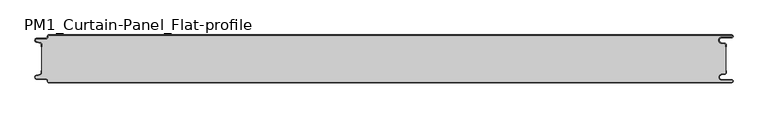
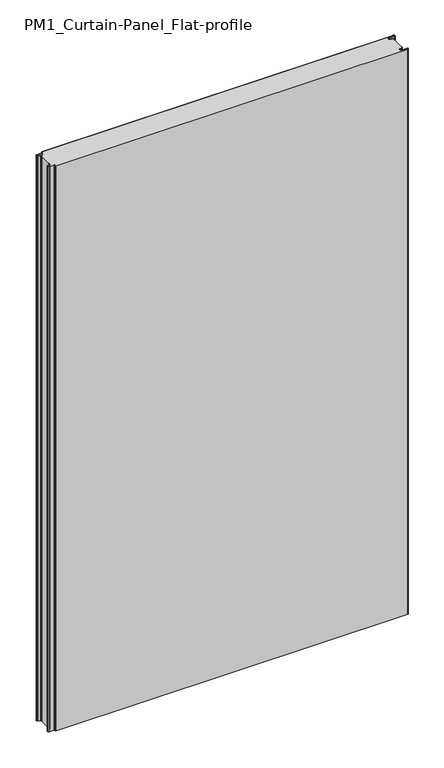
"""IFC4 building model written with IfcOpenShell, lengths in millimetres: plate geometry, PM1_Curtain-Panel_Flat-profile : ACH_PM1_Acoustic-Sectioning-Panel_80M."""

import ifcopenshell
import ifcopenshell.guid

model = None  # the IFC model being written
_history = None  # IfcOwnerHistory: only IFC2X3 demands one
_inside = {}  # id of a spatial element -> (the spatial element, [elements in it])
_under = {}  # id of a project, library or spatial element -> (it, [spatial elements below it])
_declared = {}  # id of a project -> (the project, [libraries it declares])
_typed = {}  # id of a type object -> (the type object, [elements of that type])
_made_of = {}  # id of a material, layer set ... -> (it, [elements and type objects made of it])


def new_model(schema):
    """Start an empty IFC model of exactly this schema.

    Asked for "IFC4X3", IfcOpenShell would pick the latest addendum, in which some entities
    have other attributes; the version numbers below select the first issue.
    IFC2X3 requires an IfcOwnerHistory on every rooted entity: one is made here for all.
    """
    global model, _history
    if schema == "IFC4X3":
        model = ifcopenshell.file(schema_version=(4, 3, 0, 0))
    else:
        model = ifcopenshell.file(schema=schema)
    _inside.clear()
    _under.clear()
    _declared.clear()
    _typed.clear()
    _made_of.clear()
    _history = None
    if model.schema == "IFC2X3":
        org = make("IfcOrganization", Name="unknown")
        user = make(
            "IfcPersonAndOrganization",
            ThePerson=make("IfcPerson", FamilyName="unknown"),
            TheOrganization=org,
        )
        app = make(
            "IfcApplication",
            ApplicationDeveloper=org,
            Version="unknown",
            ApplicationFullName="unknown",
            ApplicationIdentifier="unknown",
        )
        _history = make(
            "IfcOwnerHistory",
            OwningUser=user,
            OwningApplication=app,
            ChangeAction="ADDED",
            CreationDate=0,
        )
    return model


def make(cls, **values):
    """One entity of the class cls with the attributes given. An attribute that is None is left unset."""
    return model.create_entity(
        cls, **{name: value for name, value in values.items() if value is not None}
    )


def rooted(cls, **values):
    """An entity with a GlobalId (a new one), such as an element, a storey or a relation."""
    return make(cls, GlobalId=ifcopenshell.guid.new(), OwnerHistory=_history, **values)


def si_unit(unit_type, name, prefix=None):
    """IfcSIUnit, for example si_unit("LENGTHUNIT", "METRE", prefix="MILLI")."""
    return make("IfcSIUnit", UnitType=unit_type, Prefix=prefix, Name=name)


def assignment(units):
    """IfcUnitAssignment: the units of a project."""
    return None if units is None else make("IfcUnitAssignment", Units=units)


def point(xyz):
    """IfcCartesianPoint."""
    return None if xyz is None else make("IfcCartesianPoint", Coordinates=xyz)


def direction(xyz):
    """IfcDirection."""
    return None if xyz is None else make("IfcDirection", DirectionRatios=xyz)


def frame(location, z_axis=None, x_axis=None):
    """IfcAxis2Placement3D, a coordinate frame: its origin and axes. An axis left out is left unset."""
    return make(
        "IfcAxis2Placement3D",
        Location=point(location),
        Axis=direction(z_axis),
        RefDirection=direction(x_axis),
    )


def frame_2d(location, x_axis=None):
    """IfcAxis2Placement2D, a coordinate frame in the plane: its origin and x axis."""
    return make(
        "IfcAxis2Placement2D", Location=point(location), RefDirection=direction(x_axis)
    )


def origin():
    """The frame at (0, 0, 0) with its axes left unset."""
    return frame((0.0, 0.0, 0.0))


def origin_with_axes():
    """The frame at (0, 0, 0) with the z axis (0, 0, 1) and the x axis (1, 0, 0) written out."""
    return frame((0.0, 0.0, 0.0), z_axis=(0.0, 0.0, 1.0), x_axis=(1.0, 0.0, 0.0))


def place(relative_to, where):
    """IfcLocalPlacement: puts the frame where relative to a parent placement (None: the world)."""
    return make(
        "IfcLocalPlacement", PlacementRelTo=relative_to, RelativePlacement=where
    )


def context(
    kind, dimensions, precision=None, world=None, true_north=None, identifier=None
):
    """IfcGeometricRepresentationContext, for example the 3D "Model" context."""
    return make(
        "IfcGeometricRepresentationContext",
        ContextIdentifier=identifier,
        ContextType=kind,
        CoordinateSpaceDimension=dimensions,
        Precision=precision,
        WorldCoordinateSystem=world,
        TrueNorth=true_north,
    )


def project(units=None, contexts=None):
    """IfcProject with its units and contexts."""
    return rooted(
        "IfcProject",
        Name="project",
        RepresentationContexts=contexts,
        UnitsInContext=assignment(units),
    )


def spatial(cls, under=None, at=None, **own):
    """A site, building, storey or space (cls), placed at a placement, below another one or the project."""
    s = rooted(cls, ObjectPlacement=at, **own)
    if under is not None:
        _under.setdefault(under.id(), (under, []))[1].append(s)
    return s


def polyline(points):
    """IfcPolyline through the points."""
    return make("IfcPolyline", Points=[point(p) for p in points])


def circle_curve(where, radius):
    """IfcCircle in the frame where."""
    return make("IfcCircle", Position=where, Radius=radius)


def trimmed(basis, trim1, trim2, sense, master):
    """IfcTrimmedCurve: the piece of a basis curve between two trims."""
    return make(
        "IfcTrimmedCurve",
        BasisCurve=basis,
        Trim1=trim1,
        Trim2=trim2,
        SenseAgreement=sense,
        MasterRepresentation=master,
    )


def segment(curve, same_sense, transition):
    """IfcCompositeCurveSegment."""
    return make(
        "IfcCompositeCurveSegment",
        Transition=transition,
        SameSense=same_sense,
        ParentCurve=curve,
    )


def composite_curve(segments, self_intersect=None):
    """IfcCompositeCurve: segments joined end to end."""
    return make("IfcCompositeCurve", Segments=segments, SelfIntersect=self_intersect)


def outline(outer, holes=None, kind="AREA"):
    """IfcArbitraryClosedProfileDef: a profile drawn as a closed curve; with holes, ...WithVoids."""
    if holes is None:
        return make("IfcArbitraryClosedProfileDef", ProfileType=kind, OuterCurve=outer)
    return make(
        "IfcArbitraryProfileDefWithVoids",
        ProfileType=kind,
        OuterCurve=outer,
        InnerCurves=holes,
    )


def extrude(swept, where, along, depth):
    """IfcExtrudedAreaSolid: the profile swept, set in the frame where, extruded along a direction by depth."""
    return make(
        "IfcExtrudedAreaSolid",
        SweptArea=swept,
        Position=where,
        ExtrudedDirection=direction(along),
        Depth=depth,
    )


def shape(context_of_items, identifier, shape_type, items):
    """IfcShapeRepresentation: the items that make up one representation, for example the "Body"."""
    return make(
        "IfcShapeRepresentation",
        ContextOfItems=context_of_items,
        RepresentationIdentifier=identifier,
        RepresentationType=shape_type,
        Items=items,
    )


def source(mapping_origin, context_of_items, identifier, shape_type, items):
    """IfcRepresentationMap: a shape defined once, which mapped items show again and again."""
    return make(
        "IfcRepresentationMap",
        MappingOrigin=mapping_origin,
        MappedRepresentation=shape(context_of_items, identifier, shape_type, items),
    )


def transform(
    local_origin,
    x_axis=None,
    y_axis=None,
    z_axis=None,
    scale=None,
    scale2=None,
    scale3=None,
    uniform=True,
):
    """IfcCartesianTransformationOperator3D, or its non-uniform kind. x_axis, y_axis, z_axis: its Axis1, 2, 3."""
    if uniform:
        return make(
            "IfcCartesianTransformationOperator3D",
            Axis1=direction(x_axis),
            Axis2=direction(y_axis),
            LocalOrigin=point(local_origin),
            Scale=scale,
            Axis3=direction(z_axis),
        )
    return make(
        "IfcCartesianTransformationOperator3DnonUniform",
        Axis1=direction(x_axis),
        Axis2=direction(y_axis),
        LocalOrigin=point(local_origin),
        Scale=scale,
        Axis3=direction(z_axis),
        Scale2=scale2,
        Scale3=scale3,
    )


def mapped(mapping_source, mapping_target):
    """IfcMappedItem: shows the shape of a source again, moved by a transform."""
    return make(
        "IfcMappedItem", MappingSource=mapping_source, MappingTarget=mapping_target
    )


def made_of(thing, what):
    """Note that an element or type object is made of a material, layer set ...; save() writes the relation."""
    if what is not None:
        _made_of.setdefault(what.id(), (what, []))[1].append(thing)
    return thing


def element(
    cls,
    number,
    at=None,
    inside=None,
    cuts=None,
    type_object=None,
    material=None,
    context=None,
    identifier="Body",
    shape_type=None,
    held_by="IfcProductDefinitionShape",
    body=None,
    shapes=None,
    **own,
):
    """One element of the class cls, such as IfcWall. Its Tag is "e" and its number.

    at: its placement. inside: the storey or other place that contains it. cuts: it is an
    opening in that element (IfcRelVoidsElement). A single representation is given by context,
    identifier, shape_type and body (its items); several are given by shapes. held_by: the class
    of the entity that holds the representations. save() writes the other relations.
    """
    e = rooted(cls, Tag="e%d" % number, ObjectPlacement=at, **own)
    if body is not None:
        shapes = [shape(context, identifier, shape_type, body)]
    if shapes is not None:
        e.Representation = make(held_by, Representations=shapes)
    if inside is not None:
        _inside.setdefault(inside.id(), (inside, []))[1].append(e)
    if cuts is not None:
        rooted(
            "IfcRelVoidsElement", RelatingBuildingElement=cuts, RelatedOpeningElement=e
        )
    if type_object is not None:
        _typed.setdefault(type_object.id(), (type_object, []))[1].append(e)
    return made_of(e, material)


def aggregate(whole, parts):
    """IfcRelAggregates: a whole, such as a stair, and the parts it consists of."""
    return rooted("IfcRelAggregates", RelatingObject=whole, RelatedObjects=parts)


def save(model, path):
    """Write the relations noted so far, then the file.

    IfcRelAggregates (storeys below a building ...), IfcRelContainedInSpatialStructure (elements
    in a storey), IfcRelDefinesByType, IfcRelAssociatesMaterial and IfcRelDeclares: one each for
    every whole, place, type object, material and project.
    """
    for whole, parts in _under.values():
        aggregate(whole, parts)
    for where, things in _inside.values():
        rooted(
            "IfcRelContainedInSpatialStructure",
            RelatedElements=things,
            RelatingStructure=where,
        )
    for kind, things in _typed.values():
        rooted("IfcRelDefinesByType", RelatedObjects=things, RelatingType=kind)
    for what, things in _made_of.values():
        rooted("IfcRelAssociatesMaterial", RelatedObjects=things, RelatingMaterial=what)
    for by, libraries in _declared.values():
        rooted("IfcRelDeclares", RelatingContext=by, RelatedDefinitions=libraries)
    model.write(path)


def plane_surface(at):
    """IfcPlane: the flat surface through the origin of the frame at, square to its z axis."""
    return make("IfcPlane", Position=at)


def cylinder_surface(at, radius):
    """IfcCylindricalSurface: all points at the distance radius from the z axis of the frame at."""
    return make("IfcCylindricalSurface", Position=at, Radius=radius)


def revolved_surface(curve, axis_point, axis_direction):
    """IfcSurfaceOfRevolution: the curve turned about the line through axis_point along axis_direction."""
    return make(
        "IfcSurfaceOfRevolution",
        SweptCurve=make("IfcArbitraryOpenProfileDef", ProfileType="CURVE", Curve=curve),
        AxisPosition=make("IfcAxis1Placement", Location=point(axis_point), Axis=direction(axis_direction)),
    )


def advanced_brep(points, edges, surfaces, faces):
    """IfcAdvancedBrep: a solid bounded by faces that lie on surfaces and meet in shared edges.

    An edge is (start, end): straight between two places in points (the first is 0);
    or (start, end, curve); or (start, end, curve, False) where it runs against its curve.
    A face is (place in surfaces, loops), or (place, loops, False) where it looks against
    its surface's normal. A loop lists edges by number (the first is 1), with a minus sign
    where the edge is run from its end to its start. The first loop is the outer one.
    """
    corners = [point(p) for p in points]
    vertices = [make("IfcVertexPoint", VertexGeometry=c) for c in corners]
    made = []
    for start, end, *more in edges:
        made.append(
            make(
                "IfcEdgeCurve",
                EdgeStart=vertices[start],
                EdgeEnd=vertices[end],
                EdgeGeometry=more[0] if more else make("IfcPolyline", Points=[corners[start], corners[end]]),
                SameSense=more[1] if len(more) > 1 else True,
            )
        )
    hull = []
    for where, loops, *sense in faces:
        bounds = []
        for j, loop in enumerate(loops):
            ring = [make("IfcOrientedEdge", EdgeElement=made[abs(k) - 1], Orientation=k > 0) for k in loop]
            bounds.append(
                make(
                    "IfcFaceOuterBound" if j == 0 else "IfcFaceBound",
                    Bound=make("IfcEdgeLoop", EdgeList=ring),
                    Orientation=True,
                )
            )
        hull.append(make("IfcAdvancedFace", Bounds=bounds, FaceSurface=surfaces[where], SameSense=sense[0] if sense else True))
    return make("IfcAdvancedBrep", Outer=make("IfcClosedShell", CfsFaces=hull))


def pm1_curtain_panel_flat_profile_286b1131(model_context):
    return source(origin(), model_context, "Body", "SolidModel", [
        advanced_brep(
        [(583.1, 0.0, 1945.7507136), (-562.4, 0.0, 1945.7507136), (-564.4, -2.0, 1945.7507136), (-564.4, -3.4, 1945.7507136), (-566.4, -5.4, 1945.7507136), (-581.9, -5.4, 1945.7507136), (-582.7098239, -12.5077322, 1945.7507136), (-576.5500979, -13.929817, 1945.7507136), (-575.0, -15.878557, 1945.7507136), (-575.0, -20.0, 1945.7507136), (-574.2, -20.0, 1945.7507136), (-574.2, -15.878557, 1945.7507136), (-576.370137, -13.1503208, 1945.7507136), (-582.529863, -11.728236, 1945.7507136), (-581.9, -6.2, 1945.7507136), (-566.4, -6.2, 1945.7507136), (-563.6, -3.4, 1945.7507136), (-563.6, -2.0, 1945.7507136), (-562.4, -0.8, 1945.7507136), (583.1, -0.8, 1945.7507136), (583.1, -4.2, 1945.7507136), (566.1, -4.2, 1945.7507136), (565.266489, -13.7270773, 1945.7507136), (571.7125666, -14.8636942, 1945.7507136), (573.2, -16.636348, 1945.7507136), (573.2, -20.0, 1945.7507136), (574.0, -20.0, 1945.7507136), (574.0, -16.636348, 1945.7507136), (571.8514851, -14.0758478, 1945.7507136), (565.4054075, -12.9392309, 1945.7507136), (566.1, -5.0, 1945.7507136), (583.1, -5.0, 1945.7507136), (585.6, -2.5, 1945.7507136), (-562.4, 0.0, 0.0), (583.1, 0.0, 0.0), (585.6, -2.5, 0.0), (583.1, -5.0, 0.0), (566.1, -5.0, 0.0), (565.4054075, -12.939231, 0.0), (571.8514851, -14.075848, 0.0), (574.0, -16.636348, 0.0), (574.0, -20.0, 0.0), (573.2, -20.0, 0.0), (573.2, -16.636348, 0.0), (571.7125666, -14.863694, 0.0), (565.266489, -13.7270771, 0.0), (566.1, -4.2, 0.0), (583.1, -4.2, 0.0), (583.1, -0.8, 0.0), (-562.4, -0.8, 0.0), (-563.6, -2.0, 0.0), (-563.6, -3.4, 0.0), (-566.4, -6.2, 0.0), (-581.9, -6.2, 0.0), (-582.529863, -11.7282362, 0.0), (-576.370137, -13.150321, 0.0), (-574.2, -15.878557, 0.0), (-574.2, -20.0, 0.0), (-575.0, -20.0, 0.0), (-575.0, -15.878557, 0.0), (-576.5500978, -13.9298169, 0.0), (-582.7098239, -12.507732, 0.0), (-581.9, -5.4, 0.0), (-566.4, -5.4, 0.0), (-564.4, -3.4, 0.0), (-564.4, -2.0, 0.0)],
        [
            (0, 1),
            (1, 2, circle_curve(frame((-562.4, -2.0, 1945.7507136), z_axis=(0.0, 0.0, 1.0), x_axis=(1.0, 0.0, 0.0)), 2.0)),
            (2, 3),
            (3, 4, circle_curve(frame((-566.4, -3.4, 1945.7507136), z_axis=(0.0, 0.0, -1.0), x_axis=(1.0, 0.0, 0.0)), 2.0)),
            (4, 5),
            (5, 6, circle_curve(frame((-581.9, -9.0, 1945.7507136), z_axis=(0.0, 0.0, 1.0), x_axis=(1.0, 0.0, 0.0)), 3.6)),
            (6, 7),
            (7, 8, circle_curve(frame((-577.0, -15.878557, 1945.7507136), z_axis=(0.0, 0.0, -1.0), x_axis=(1.0, 0.0, 0.0)), 2.0)),
            (8, 9),
            (9, 10),
            (10, 11),
            (11, 12, circle_curve(frame((-577.0, -15.878557, 1945.7507136), z_axis=(0.0, 0.0, 1.0), x_axis=(1.0, 0.0, 0.0)), 2.8)),
            (12, 13),
            (13, 14, circle_curve(frame((-581.9, -9.0, 1945.7507136), z_axis=(0.0, 0.0, -1.0), x_axis=(1.0, 0.0, 0.0)), 2.8)),
            (14, 15),
            (15, 16, circle_curve(frame((-566.4, -3.4, 1945.7507136), z_axis=(0.0, 0.0, 1.0), x_axis=(1.0, 0.0, 0.0)), 2.8)),
            (16, 17),
            (17, 18, circle_curve(frame((-562.4, -2.0, 1945.7507136), z_axis=(0.0, 0.0, -1.0), x_axis=(1.0, 0.0, 0.0)), 1.2)),
            (18, 19),
            (19, 20, circle_curve(frame((583.1, -2.5, 1945.7507136), z_axis=(0.0, 0.0, -1.0), x_axis=(1.0, 0.0, 0.0)), 1.7)),
            (20, 21),
            (21, 22, circle_curve(frame((566.1, -9.0, 1945.7507136), z_axis=(0.0, 0.0, 1.0), x_axis=(1.0, 0.0, 0.0)), 4.8)),
            (22, 23),
            (23, 24, circle_curve(frame((571.4, -16.636348, 1945.7507136), z_axis=(0.0, 0.0, -1.0), x_axis=(1.0, 0.0, 0.0)), 1.8)),
            (24, 25),
            (25, 26),
            (26, 27),
            (27, 28, circle_curve(frame((571.4, -16.636348, 1945.7507136), z_axis=(0.0, 0.0, 1.0), x_axis=(1.0, 0.0, 0.0)), 2.6)),
            (28, 29),
            (29, 30, circle_curve(frame((566.1, -9.0, 1945.7507136), z_axis=(0.0, 0.0, -1.0), x_axis=(1.0, 0.0, 0.0)), 4.0)),
            (30, 31),
            (31, 32, circle_curve(frame((583.1, -2.5, 1945.7507136), z_axis=(0.0, 0.0, 1.0), x_axis=(1.0, 0.0, 0.0)), 2.5)),
            (32, 0, circle_curve(frame((583.1, -2.5, 1945.7507136), z_axis=(0.0, 0.0, 1.0), x_axis=(1.0, 0.0, 0.0)), 2.5)),
            (33, 34),
            (34, 35, circle_curve(frame((583.1, -2.5, 0.0), z_axis=(0.0, 0.0, -1.0), x_axis=(1.0, 0.0, 0.0)), 2.5)),
            (35, 36, circle_curve(frame((583.1, -2.5, 0.0), z_axis=(0.0, 0.0, -1.0), x_axis=(1.0, 0.0, 0.0)), 2.5)),
            (36, 37),
            (37, 38, circle_curve(frame((566.1, -9.0, 0.0), z_axis=(0.0, 0.0, 1.0), x_axis=(1.0, 0.0, 0.0)), 4.0)),
            (38, 39),
            (39, 40, circle_curve(frame((571.4, -16.636348, 0.0), z_axis=(0.0, 0.0, -1.0), x_axis=(1.0, 0.0, 0.0)), 2.6)),
            (40, 41),
            (41, 42),
            (42, 43),
            (43, 44, circle_curve(frame((571.4, -16.636348, 0.0), z_axis=(0.0, 0.0, 1.0), x_axis=(1.0, 0.0, 0.0)), 1.8)),
            (44, 45),
            (45, 46, circle_curve(frame((566.1, -9.0, 0.0), z_axis=(0.0, 0.0, -1.0), x_axis=(1.0, 0.0, 0.0)), 4.8)),
            (46, 47),
            (47, 48, circle_curve(frame((583.1, -2.5, 0.0), z_axis=(0.0, 0.0, 1.0), x_axis=(1.0, 0.0, 0.0)), 1.7)),
            (48, 49),
            (49, 50, circle_curve(frame((-562.4, -2.0, 0.0), z_axis=(0.0, 0.0, 1.0), x_axis=(1.0, 0.0, 0.0)), 1.2)),
            (50, 51),
            (51, 52, circle_curve(frame((-566.4, -3.4, 0.0), z_axis=(0.0, 0.0, -1.0), x_axis=(1.0, 0.0, 0.0)), 2.8)),
            (52, 53),
            (53, 54, circle_curve(frame((-581.9, -9.0, 0.0), z_axis=(0.0, 0.0, 1.0), x_axis=(1.0, 0.0, 0.0)), 2.8)),
            (54, 55),
            (55, 56, circle_curve(frame((-577.0, -15.878557, 0.0), z_axis=(0.0, 0.0, -1.0), x_axis=(1.0, 0.0, 0.0)), 2.8)),
            (56, 57),
            (57, 58),
            (58, 59),
            (59, 60, circle_curve(frame((-577.0, -15.878557, 0.0), z_axis=(0.0, 0.0, 1.0), x_axis=(1.0, 0.0, 0.0)), 2.0)),
            (60, 61),
            (61, 62, circle_curve(frame((-581.9, -9.0, 0.0), z_axis=(0.0, 0.0, -1.0), x_axis=(1.0, 0.0, 0.0)), 3.6)),
            (62, 63),
            (63, 64, circle_curve(frame((-566.4, -3.4, 0.0), z_axis=(0.0, 0.0, 1.0), x_axis=(1.0, 0.0, 0.0)), 2.0)),
            (64, 65),
            (65, 33, circle_curve(frame((-562.4, -2.0, 0.0), z_axis=(0.0, 0.0, -1.0), x_axis=(1.0, 0.0, 0.0)), 2.0)),
            (1, 33),
            (65, 2),
            (64, 3),
            (63, 4),
            (62, 5),
            (61, 6),
            (60, 7),
            (59, 8),
            (58, 9),
            (57, 10),
            (56, 11),
            (55, 12),
            (54, 13),
            (53, 14),
            (52, 15),
            (51, 16),
            (50, 17),
            (49, 18),
            (48, 19),
            (47, 20),
            (46, 21),
            (45, 22),
            (44, 23),
            (43, 24),
            (42, 25),
            (41, 26),
            (40, 27),
            (39, 28),
            (38, 29),
            (37, 30),
            (36, 31),
            (34, 0),
        ],
        [
            plane_surface(frame((-575.0, 0.0, 1945.7507136), z_axis=(0.0, 0.0, 1.0), x_axis=(0.0, 1.0, 0.0))),
            plane_surface(frame((-575.0, 0.0, 0.0), z_axis=(0.0, 0.0, -1.0), x_axis=(0.0, 1.0, 0.0))),
            cylinder_surface(frame((-562.4, -2.0, 1945.7507136), z_axis=(0.0, 0.0, 1.0), x_axis=(1.0, 0.0, 0.0)), 2.0),
            plane_surface(frame((-564.4, -2.0, 1945.7507136), z_axis=(-1.0, 0.0, 0.0), x_axis=(0.0, 0.0, -1.0))),
            revolved_surface(polyline([(-564.4, -3.4, 0.0), (-564.4, -3.4, 1945.7507136)]), (-566.4, -3.4, 1945.7507136), (0.0, 0.0, -1.0)),
            plane_surface(frame((-566.4, -5.4, 1945.7507136), z_axis=(0.0, 1.0, 0.0), x_axis=(0.0, 0.0, -1.0))),
            cylinder_surface(frame((-581.9, -9.0, 1945.7507136), z_axis=(0.0, 0.0, 1.0), x_axis=(1.0, 0.0, 0.0)), 3.6),
            plane_surface(frame((-582.7098239, -12.507732, 1945.7507136), z_axis=(-0.2249510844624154, -0.9743700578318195, 0.0), x_axis=(0.0, 0.0, -1.0))),
            revolved_surface(polyline([(-575.0, -15.878557, 0.0), (-575.0, -15.878557, 1945.7507136)]), (-577.0, -15.878557, 1945.7507136), (0.0, 0.0, -1.0)),
            plane_surface(frame((-575.0, -15.878557, 1945.7507136), z_axis=(-1.0, 0.0, 0.0), x_axis=(0.0, 0.0, -1.0))),
            plane_surface(frame((-575.0, -20.0, 1945.7507136), z_axis=(0.0, -1.0, 0.0), x_axis=(0.0, 0.0, -1.0))),
            plane_surface(frame((-574.2, -20.0, 1945.7507136), z_axis=(1.0, 0.0, 0.0), x_axis=(0.0, 0.0, -1.0))),
            cylinder_surface(frame((-577.0, -15.878557, 1945.7507136), z_axis=(0.0, 0.0, 1.0), x_axis=(1.0, 0.0, 0.0)), 2.8),
            plane_surface(frame((-576.370137, -13.150321, 1945.7507136), z_axis=(0.22495108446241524, 0.9743700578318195, 0.0), x_axis=(0.0, 0.0, -1.0))),
            revolved_surface(polyline([(-579.1, -9.0, 0.0), (-579.1, -9.0, 1945.7507136)]), (-581.9, -9.0, 1945.7507136), (0.0, 0.0, -1.0)),
            plane_surface(frame((-581.9, -6.2, 1945.7507136), z_axis=(0.0, -1.0, 0.0), x_axis=(0.0, 0.0, -1.0))),
            cylinder_surface(frame((-566.4, -3.4, 1945.7507136), z_axis=(0.0, 0.0, 1.0), x_axis=(1.0, 0.0, 0.0)), 2.8),
            plane_surface(frame((-563.6, -3.4, 1945.7507136), z_axis=(1.0, 0.0, 0.0), x_axis=(0.0, 0.0, -1.0))),
            revolved_surface(polyline([(-561.1999999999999, -2.0, 0.0), (-561.1999999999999, -2.0, 1945.7507136)]), (-562.4, -2.0, 1945.7507136), (0.0, 0.0, -1.0)),
            plane_surface(frame((560.890897, -0.8, 1945.7507136), z_axis=(0.0, -1.0, 0.0), x_axis=(0.0, 0.0, -1.0))),
            revolved_surface(polyline([(584.8000000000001, -2.5, 0.0), (584.8000000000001, -2.5, 1945.7507136)]), (583.1, -2.5, 1945.7507136), (0.0, 0.0, -1.0)),
            plane_surface(frame((583.1, -4.2, 1945.7507136), z_axis=(0.0, 1.0, 0.0), x_axis=(0.0, 0.0, -1.0))),
            cylinder_surface(frame((566.1, -9.0, 1945.7507136), z_axis=(0.0, 0.0, 1.0), x_axis=(1.0, 0.0, 0.0)), 4.8),
            plane_surface(frame((565.266489, -13.7270771, 1945.7507136), z_axis=(-0.1736481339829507, -0.9848077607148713, 0.0), x_axis=(0.0, 0.0, -1.0))),
            revolved_surface(polyline([(573.1999999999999, -16.636348, 0.0), (573.1999999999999, -16.636348, 1945.7507136)]), (571.4, -16.636348, 1945.7507136), (0.0, 0.0, -1.0)),
            plane_surface(frame((573.2, -16.636348, 1945.7507136), z_axis=(-1.0, 0.0, 0.0), x_axis=(0.0, 0.0, -1.0))),
            plane_surface(frame((573.2, -20.0, 1945.7507136), z_axis=(0.0, -1.0, 0.0), x_axis=(0.0, 0.0, -1.0))),
            plane_surface(frame((574.0, -20.0, 1945.7507136), z_axis=(1.0, 0.0, 0.0), x_axis=(0.0, 0.0, -1.0))),
            cylinder_surface(frame((571.4, -16.636348, 1945.7507136), z_axis=(0.0, 0.0, 1.0), x_axis=(1.0, 0.0, 0.0)), 2.6),
            plane_surface(frame((571.8514851, -14.075848, 1945.7507136), z_axis=(0.17364813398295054, 0.9848077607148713, 0.0), x_axis=(0.0, 0.0, -1.0))),
            revolved_surface(polyline([(570.1, -9.0, 0.0), (570.1, -9.0, 1945.7507136)]), (566.1, -9.0, 1945.7507136), (0.0, 0.0, -1.0)),
            plane_surface(frame((566.1, -5.0, 1945.7507136), z_axis=(0.0, -1.0, 0.0), x_axis=(0.0, 0.0, -1.0))),
            cylinder_surface(frame((583.1, -2.5, 1945.7507136), z_axis=(0.0, 0.0, 1.0), x_axis=(1.0, 0.0, 0.0)), 2.5),
            plane_surface(frame((510.5961529, 0.0, 1945.7507136), z_axis=(0.0, 1.0, 0.0), x_axis=(0.0, 0.0, -1.0))),
        ],
        [
            (0, [[1, 2, 3, 4, 5, 6, 7, 8, 9, 10, 11, 12, 13, 14, 15, 16, 17, 18, 19, 20, 21, 22, 23, 24, 25, 26, 27, 28, 29, 30, 31, 32, 33]]),
            (1, [[34, 35, 36, 37, 38, 39, 40, 41, 42, 43, 44, 45, 46, 47, 48, 49, 50, 51, 52, 53, 54, 55, 56, 57, 58, 59, 60, 61, 62, 63, 64, 65, 66]]),
            (2, [[-2, 67, -66, 68]]),
            (3, [[-3, -68, -65, 69]]),
            (4, [[-4, -69, -64, 70]]),
            (5, [[-5, -70, -63, 71]]),
            (6, [[-6, -71, -62, 72]]),
            (7, [[-7, -72, -61, 73]]),
            (8, [[-8, -73, -60, 74]]),
            (9, [[-9, -74, -59, 75]]),
            (10, [[-10, -75, -58, 76]]),
            (11, [[-11, -76, -57, 77]]),
            (12, [[-12, -77, -56, 78]]),
            (13, [[-13, -78, -55, 79]]),
            (14, [[-14, -79, -54, 80]]),
            (15, [[-15, -80, -53, 81]]),
            (16, [[-16, -81, -52, 82]]),
            (17, [[-17, -82, -51, 83]]),
            (18, [[-18, -83, -50, 84]]),
            (19, [[-19, -84, -49, 85]]),
            (20, [[-20, -85, -48, 86]]),
            (21, [[-21, -86, -47, 87]]),
            (22, [[-22, -87, -46, 88]]),
            (23, [[-23, -88, -45, 89]]),
            (24, [[-24, -89, -44, 90]]),
            (25, [[-25, -90, -43, 91]]),
            (26, [[-26, -91, -42, 92]]),
            (27, [[-27, -92, -41, 93]]),
            (28, [[-28, -93, -40, 94]]),
            (29, [[-29, -94, -39, 95]]),
            (30, [[-30, -95, -38, 96]]),
            (31, [[-31, -96, -37, 97]]),
            (32, [[-97, -36, -35, 98, -33, -32]]),
            (33, [[-1, -98, -34, -67]]),
        ],
    ),
        extrude(outline(composite_curve([segment(polyline([(-574.2, -64.1214426), (-574.2, -15.8785573)]), True, "CONTINUOUS"), segment(trimmed(circle_curve(frame_2d((-577.0, -15.8785573)), 2.8), [point((-574.2, -15.8785573))], [point((-576.370137, -13.1503212))], True, "CARTESIAN"), True, "CONTINUOUS"), segment(polyline([(-576.370137, -13.1503212), (-582.5298631, -11.7282362)]), True, "CONTINUOUS"), segment(trimmed(circle_curve(frame_2d((-581.9, -9.0)), 2.8), [point((-582.5298631, -11.7282362))], [point((-581.9, -6.2))], False, "CARTESIAN"), True, "CONTINUOUS"), segment(polyline([(-581.9, -6.2), (-566.4000001, -6.2)]), True, "CONTINUOUS"), segment(trimmed(circle_curve(frame_2d((-566.4000001, -3.4)), 2.8), [point((-566.4000001, -6.2))], [point((-563.6000001, -3.4))], True, "CARTESIAN"), True, "CONTINUOUS"), segment(polyline([(-563.6000001, -3.4), (-563.6000001, -2.0)]), True, "CONTINUOUS"), segment(trimmed(circle_curve(frame_2d((-562.4000001, -2.0)), 1.2), [point((-563.6000001, -2.0))], [point((-562.4000001, -0.8))], False, "CARTESIAN"), True, "CONTINUOUS"), segment(polyline([(-562.4000001, -0.8), (583.1, -0.8)]), True, "CONTINUOUS"), segment(trimmed(circle_curve(frame_2d((583.1, -2.5)), 1.7), [point((583.1, -0.8))], [point((583.1, -4.2))], False, "CARTESIAN"), True, "CONTINUOUS"), segment(polyline([(583.1, -4.2), (566.1, -4.2)]), True, "CONTINUOUS"), segment(trimmed(circle_curve(frame_2d((566.1, -9.0)), 4.8), [point((566.1, -4.2))], [point((565.2664883, -13.7270771))], True, "CARTESIAN"), True, "CONTINUOUS"), segment(polyline([(565.2664883, -13.7270771), (571.7125668, -14.8636953)]), True, "CONTINUOUS"), segment(trimmed(circle_curve(frame_2d((571.4, -16.6363492)), 1.8), [point((571.7125668, -14.8636953))], [point((573.2, -16.6363492))], False, "CARTESIAN"), True, "CONTINUOUS"), segment(polyline([(573.2, -16.6363492), (573.2, -63.3636508)]), True, "CONTINUOUS"), segment(trimmed(circle_curve(frame_2d((571.4, -63.3636508)), 1.8), [point((573.2, -63.3636508))], [point((571.7125668, -65.1363047))], False, "CARTESIAN"), True, "CONTINUOUS"), segment(polyline([(571.7125668, -65.1363047), (565.2664883, -66.2729229)]), True, "CONTINUOUS"), segment(trimmed(circle_curve(frame_2d((566.1, -71.0)), 4.8), [point((565.2664883, -66.2729229))], [point((566.1, -75.8))], True, "CARTESIAN"), True, "CONTINUOUS"), segment(polyline([(566.1, -75.8), (583.1, -75.8)]), True, "CONTINUOUS"), segment(trimmed(circle_curve(frame_2d((583.1, -77.5)), 1.7), [point((583.1, -75.8))], [point((583.1, -79.2))], False, "CARTESIAN"), True, "CONTINUOUS"), segment(polyline([(583.1, -79.2), (-562.4000001, -79.2)]), True, "CONTINUOUS"), segment(trimmed(circle_curve(frame_2d((-562.4000001, -78.0)), 1.2), [point((-562.4000001, -79.2))], [point((-563.6000001, -78.0))], False, "CARTESIAN"), True, "CONTINUOUS"), segment(polyline([(-563.6000001, -78.0), (-563.6000001, -76.6)]), True, "CONTINUOUS"), segment(trimmed(circle_curve(frame_2d((-566.4000001, -76.6)), 2.8), [point((-563.6000001, -76.6))], [point((-566.4000001, -73.8))], True, "CARTESIAN"), True, "CONTINUOUS"), segment(polyline([(-566.4000001, -73.8), (-581.9, -73.8)]), True, "CONTINUOUS"), segment(trimmed(circle_curve(frame_2d((-581.9, -71.0)), 2.8), [point((-581.9, -73.8))], [point((-582.5298631, -68.2717638))], False, "CARTESIAN"), True, "CONTINUOUS"), segment(polyline([(-582.5298631, -68.2717638), (-576.370137, -66.8496788)]), True, "CONTINUOUS"), segment(trimmed(circle_curve(frame_2d((-577.0, -64.1214426)), 2.8), [point((-576.370137, -66.8496788))], [point((-574.2, -64.1214426))], True, "CARTESIAN"), True, "CONTINUOUS")], self_intersect=False)), origin_with_axes(), (0.0, 0.0, 1.0), 1945.7507136),
        advanced_brep(
        [(-562.4, -80.0, 1945.7507136), (583.1, -80.0, 1945.7507136), (585.6, -77.5, 1945.7507136), (583.1, -75.0, 1945.7507136), (566.1, -75.0, 1945.7507136), (565.4054075, -67.060769, 1945.7507136), (571.8514851, -65.924152, 1945.7507136), (574.0, -63.363652, 1945.7507136), (574.0, -60.0, 1945.7507136), (573.2, -60.0, 1945.7507136), (573.2, -63.363652, 1945.7507136), (571.7125666, -65.136306, 1945.7507136), (565.266489, -66.2729229, 1945.7507136), (566.1, -75.8, 1945.7507136), (583.1, -75.8, 1945.7507136), (583.1, -79.2, 1945.7507136), (-562.4, -79.2, 1945.7507136), (-563.6, -78.0, 1945.7507136), (-563.6, -76.6, 1945.7507136), (-566.4, -73.8, 1945.7507136), (-581.9, -73.8, 1945.7507136), (-582.529863, -68.2717638, 1945.7507136), (-576.370137, -66.849679, 1945.7507136), (-574.2, -64.121443, 1945.7507136), (-574.2, -60.0, 1945.7507136), (-575.0, -60.0, 1945.7507136), (-575.0, -64.121443, 1945.7507136), (-576.5500978, -66.0701831, 1945.7507136), (-582.7098239, -67.492268, 1945.7507136), (-581.9, -74.6, 1945.7507136), (-566.4, -74.6, 1945.7507136), (-564.4, -76.6, 1945.7507136), (-564.4, -78.0, 1945.7507136), (583.1, -80.0, 0.0), (-562.4, -80.0, 0.0), (-564.4, -78.0, 0.0), (-564.4, -76.6, 0.0), (-566.4, -74.6, 0.0), (-581.9, -74.6, 0.0), (-582.7098239, -67.4922678, 0.0), (-576.5500979, -66.070183, 0.0), (-575.0, -64.121443, 0.0), (-575.0, -60.0, 0.0), (-574.2, -60.0, 0.0), (-574.2, -64.121443, 0.0), (-576.370137, -66.8496792, 0.0), (-582.529863, -68.271764, 0.0), (-581.9, -73.8, 0.0), (-566.4, -73.8, 0.0), (-563.6, -76.6, 0.0), (-563.6, -78.0, 0.0), (-562.4, -79.2, 0.0), (583.1, -79.2, 0.0), (583.1, -75.8, 0.0), (566.1, -75.8, 0.0), (565.266489, -66.2729227, 0.0), (571.7125666, -65.1363058, 0.0), (573.2, -63.363652, 0.0), (573.2, -60.0, 0.0), (574.0, -60.0, 0.0), (574.0, -63.363652, 0.0), (571.8514851, -65.9241522, 0.0), (565.4054075, -67.0607691, 0.0), (566.1, -75.0, 0.0), (583.1, -75.0, 0.0), (585.6, -77.5, 0.0)],
        [
            (0, 1),
            (1, 2, circle_curve(frame((583.1, -77.5, 1945.7507136), z_axis=(0.0, 0.0, 1.0), x_axis=(1.0, 0.0, 0.0)), 2.5)),
            (2, 3, circle_curve(frame((583.1, -77.5, 1945.7507136), z_axis=(0.0, 0.0, 1.0), x_axis=(1.0, 0.0, 0.0)), 2.5)),
            (3, 4),
            (4, 5, circle_curve(frame((566.1, -71.0, 1945.7507136), z_axis=(0.0, 0.0, -1.0), x_axis=(1.0, 0.0, 0.0)), 4.0)),
            (5, 6),
            (6, 7, circle_curve(frame((571.4, -63.363652, 1945.7507136), z_axis=(0.0, 0.0, 1.0), x_axis=(1.0, 0.0, 0.0)), 2.6)),
            (7, 8),
            (8, 9),
            (9, 10),
            (10, 11, circle_curve(frame((571.4, -63.363652, 1945.7507136), z_axis=(0.0, 0.0, -1.0), x_axis=(1.0, 0.0, 0.0)), 1.8)),
            (11, 12),
            (12, 13, circle_curve(frame((566.1, -71.0, 1945.7507136), z_axis=(0.0, 0.0, 1.0), x_axis=(1.0, 0.0, 0.0)), 4.8)),
            (13, 14),
            (14, 15, circle_curve(frame((583.1, -77.5, 1945.7507136), z_axis=(0.0, 0.0, -1.0), x_axis=(1.0, 0.0, 0.0)), 1.7)),
            (15, 16),
            (16, 17, circle_curve(frame((-562.4, -78.0, 1945.7507136), z_axis=(0.0, 0.0, -1.0), x_axis=(1.0, 0.0, 0.0)), 1.2)),
            (17, 18),
            (18, 19, circle_curve(frame((-566.4, -76.6, 1945.7507136), z_axis=(0.0, 0.0, 1.0), x_axis=(1.0, 0.0, 0.0)), 2.8)),
            (19, 20),
            (20, 21, circle_curve(frame((-581.9, -71.0, 1945.7507136), z_axis=(0.0, 0.0, -1.0), x_axis=(1.0, 0.0, 0.0)), 2.8)),
            (21, 22),
            (22, 23, circle_curve(frame((-577.0, -64.121443, 1945.7507136), z_axis=(0.0, 0.0, 1.0), x_axis=(1.0, 0.0, 0.0)), 2.8)),
            (23, 24),
            (24, 25),
            (25, 26),
            (26, 27, circle_curve(frame((-577.0, -64.121443, 1945.7507136), z_axis=(0.0, 0.0, -1.0), x_axis=(1.0, 0.0, 0.0)), 2.0)),
            (27, 28),
            (28, 29, circle_curve(frame((-581.9, -71.0, 1945.7507136), z_axis=(0.0, 0.0, 1.0), x_axis=(1.0, 0.0, 0.0)), 3.6)),
            (29, 30),
            (30, 31, circle_curve(frame((-566.4, -76.6, 1945.7507136), z_axis=(0.0, 0.0, -1.0), x_axis=(1.0, 0.0, 0.0)), 2.0)),
            (31, 32),
            (32, 0, circle_curve(frame((-562.4, -78.0, 1945.7507136), z_axis=(0.0, 0.0, 1.0), x_axis=(1.0, 0.0, 0.0)), 2.0)),
            (33, 34),
            (34, 35, circle_curve(frame((-562.4, -78.0, 0.0), z_axis=(0.0, 0.0, -1.0), x_axis=(1.0, 0.0, 0.0)), 2.0)),
            (35, 36),
            (36, 37, circle_curve(frame((-566.4, -76.6, 0.0), z_axis=(0.0, 0.0, 1.0), x_axis=(1.0, 0.0, 0.0)), 2.0)),
            (37, 38),
            (38, 39, circle_curve(frame((-581.9, -71.0, 0.0), z_axis=(0.0, 0.0, -1.0), x_axis=(1.0, 0.0, 0.0)), 3.6)),
            (39, 40),
            (40, 41, circle_curve(frame((-577.0, -64.121443, 0.0), z_axis=(0.0, 0.0, 1.0), x_axis=(1.0, 0.0, 0.0)), 2.0)),
            (41, 42),
            (42, 43),
            (43, 44),
            (44, 45, circle_curve(frame((-577.0, -64.121443, 0.0), z_axis=(0.0, 0.0, -1.0), x_axis=(1.0, 0.0, 0.0)), 2.8)),
            (45, 46),
            (46, 47, circle_curve(frame((-581.9, -71.0, 0.0), z_axis=(0.0, 0.0, 1.0), x_axis=(1.0, 0.0, 0.0)), 2.8)),
            (47, 48),
            (48, 49, circle_curve(frame((-566.4, -76.6, 0.0), z_axis=(0.0, 0.0, -1.0), x_axis=(1.0, 0.0, 0.0)), 2.8)),
            (49, 50),
            (50, 51, circle_curve(frame((-562.4, -78.0, 0.0), z_axis=(0.0, 0.0, 1.0), x_axis=(1.0, 0.0, 0.0)), 1.2)),
            (51, 52),
            (52, 53, circle_curve(frame((583.1, -77.5, 0.0), z_axis=(0.0, 0.0, 1.0), x_axis=(1.0, 0.0, 0.0)), 1.7)),
            (53, 54),
            (54, 55, circle_curve(frame((566.1, -71.0, 0.0), z_axis=(0.0, 0.0, -1.0), x_axis=(1.0, 0.0, 0.0)), 4.8)),
            (55, 56),
            (56, 57, circle_curve(frame((571.4, -63.363652, 0.0), z_axis=(0.0, 0.0, 1.0), x_axis=(1.0, 0.0, 0.0)), 1.8)),
            (57, 58),
            (58, 59),
            (59, 60),
            (60, 61, circle_curve(frame((571.4, -63.363652, 0.0), z_axis=(0.0, 0.0, -1.0), x_axis=(1.0, 0.0, 0.0)), 2.6)),
            (61, 62),
            (62, 63, circle_curve(frame((566.1, -71.0, 0.0), z_axis=(0.0, 0.0, 1.0), x_axis=(1.0, 0.0, 0.0)), 4.0)),
            (63, 64),
            (64, 65, circle_curve(frame((583.1, -77.5, 0.0), z_axis=(0.0, 0.0, -1.0), x_axis=(1.0, 0.0, 0.0)), 2.5)),
            (65, 33, circle_curve(frame((583.1, -77.5, 0.0), z_axis=(0.0, 0.0, -1.0), x_axis=(1.0, 0.0, 0.0)), 2.5)),
            (0, 34),
            (33, 1),
            (64, 3),
            (63, 4),
            (62, 5),
            (61, 6),
            (60, 7),
            (59, 8),
            (58, 9),
            (57, 10),
            (56, 11),
            (55, 12),
            (54, 13),
            (53, 14),
            (52, 15),
            (51, 16),
            (50, 17),
            (49, 18),
            (48, 19),
            (47, 20),
            (46, 21),
            (45, 22),
            (44, 23),
            (43, 24),
            (42, 25),
            (41, 26),
            (40, 27),
            (39, 28),
            (38, 29),
            (37, 30),
            (36, 31),
            (35, 32),
        ],
        [
            plane_surface(frame((-575.0, -80.0, 1945.7507136), z_axis=(0.0, 0.0, 1.0), x_axis=(0.0, 1.0, 0.0))),
            plane_surface(frame((-575.0, -80.0, 0.0), z_axis=(0.0, 0.0, -1.0), x_axis=(0.0, 1.0, 0.0))),
            plane_surface(frame((560.890897, -80.0, 1945.7507136), z_axis=(0.0, -1.0, 0.0), x_axis=(0.0, 0.0, -1.0))),
            cylinder_surface(frame((583.1, -77.5, 1945.7507136), z_axis=(0.0, 0.0, 1.0), x_axis=(1.0, 0.0, 0.0)), 2.5),
            plane_surface(frame((583.1, -75.0, 1945.7507136), z_axis=(0.0, 1.0, 0.0), x_axis=(0.0, 0.0, -1.0))),
            revolved_surface(polyline([(570.1, -71.0, 0.0), (570.1, -71.0, 1945.7507136)]), (566.1, -71.0, 1945.7507136), (0.0, 0.0, -1.0)),
            plane_surface(frame((565.4054075, -67.0607691, 1945.7507136), z_axis=(0.17364813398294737, -0.9848077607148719, 0.0), x_axis=(0.0, 0.0, -1.0))),
            cylinder_surface(frame((571.4, -63.363652, 1945.7507136), z_axis=(0.0, 0.0, 1.0), x_axis=(1.0, 0.0, 0.0)), 2.6),
            plane_surface(frame((574.0, -63.363652, 1945.7507136), z_axis=(1.0, 0.0, 0.0), x_axis=(0.0, 0.0, -1.0))),
            plane_surface(frame((574.0, -60.0, 1945.7507136), z_axis=(0.0, 1.0, 0.0), x_axis=(0.0, 0.0, -1.0))),
            plane_surface(frame((573.2, -60.0, 1945.7507136), z_axis=(-1.0, 0.0, 0.0), x_axis=(0.0, 0.0, -1.0))),
            revolved_surface(polyline([(573.1999999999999, -63.363652, 0.0), (573.1999999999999, -63.363652, 1945.7507136)]), (571.4, -63.363652, 1945.7507136), (0.0, 0.0, -1.0)),
            plane_surface(frame((571.7125666, -65.1363058, 1945.7507136), z_axis=(-0.17364813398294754, 0.9848077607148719, 0.0), x_axis=(0.0, 0.0, -1.0))),
            cylinder_surface(frame((566.1, -71.0, 1945.7507136), z_axis=(0.0, 0.0, 1.0), x_axis=(1.0, 0.0, 0.0)), 4.8),
            plane_surface(frame((566.1, -75.8, 1945.7507136), z_axis=(0.0, -1.0, 0.0), x_axis=(0.0, 0.0, -1.0))),
            revolved_surface(polyline([(584.8000000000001, -77.5, 0.0), (584.8000000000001, -77.5, 1945.7507136)]), (583.1, -77.5, 1945.7507136), (0.0, 0.0, -1.0)),
            plane_surface(frame((510.8105122, -79.2, 1945.7507136), z_axis=(0.0, 1.0, 0.0), x_axis=(0.0, 0.0, -1.0))),
            revolved_surface(polyline([(-561.1999999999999, -78.0, 0.0), (-561.1999999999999, -78.0, 1945.7507136)]), (-562.4, -78.0, 1945.7507136), (0.0, 0.0, -1.0)),
            plane_surface(frame((-563.6, -78.0, 1945.7507136), z_axis=(1.0, 0.0, 0.0), x_axis=(0.0, 0.0, -1.0))),
            cylinder_surface(frame((-566.4, -76.6, 1945.7507136), z_axis=(0.0, 0.0, 1.0), x_axis=(1.0, 0.0, 0.0)), 2.8),
            plane_surface(frame((-566.4, -73.8, 1945.7507136), z_axis=(0.0, 1.0, 0.0), x_axis=(0.0, 0.0, -1.0))),
            revolved_surface(polyline([(-579.1, -71.0, 0.0), (-579.1, -71.0, 1945.7507136)]), (-581.9, -71.0, 1945.7507136), (0.0, 0.0, -1.0)),
            plane_surface(frame((-582.529863, -68.271764, 1945.7507136), z_axis=(0.2249510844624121, -0.9743700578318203, 0.0), x_axis=(0.0, 0.0, -1.0))),
            cylinder_surface(frame((-577.0, -64.121443, 1945.7507136), z_axis=(0.0, 0.0, 1.0), x_axis=(1.0, 0.0, 0.0)), 2.8),
            plane_surface(frame((-574.2, -64.121443, 1945.7507136), z_axis=(1.0, 0.0, 0.0), x_axis=(0.0, 0.0, -1.0))),
            plane_surface(frame((-574.2, -60.0, 1945.7507136), z_axis=(0.0, 1.0, 0.0), x_axis=(0.0, 0.0, -1.0))),
            plane_surface(frame((-575.0, -60.0, 1945.7507136), z_axis=(-1.0, 0.0, 0.0), x_axis=(0.0, 0.0, -1.0))),
            revolved_surface(polyline([(-575.0, -64.121443, 0.0), (-575.0, -64.121443, 1945.7507136)]), (-577.0, -64.121443, 1945.7507136), (0.0, 0.0, -1.0)),
            plane_surface(frame((-576.5500979, -66.070183, 1945.7507136), z_axis=(-0.22495108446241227, 0.9743700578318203, 0.0), x_axis=(0.0, 0.0, -1.0))),
            cylinder_surface(frame((-581.9, -71.0, 1945.7507136), z_axis=(0.0, 0.0, 1.0), x_axis=(1.0, 0.0, 0.0)), 3.6),
            plane_surface(frame((-581.9, -74.6, 1945.7507136), z_axis=(0.0, -1.0, 0.0), x_axis=(0.0, 0.0, -1.0))),
            revolved_surface(polyline([(-564.4, -76.6, 0.0), (-564.4, -76.6, 1945.7507136)]), (-566.4, -76.6, 1945.7507136), (0.0, 0.0, -1.0)),
            plane_surface(frame((-564.4, -76.6, 1945.7507136), z_axis=(-1.0, 0.0, 0.0), x_axis=(0.0, 0.0, -1.0))),
            cylinder_surface(frame((-562.4, -78.0, 1945.7507136), z_axis=(0.0, 0.0, 1.0), x_axis=(1.0, 0.0, 0.0)), 2.0),
        ],
        [
            (0, [[1, 2, 3, 4, 5, 6, 7, 8, 9, 10, 11, 12, 13, 14, 15, 16, 17, 18, 19, 20, 21, 22, 23, 24, 25, 26, 27, 28, 29, 30, 31, 32, 33]]),
            (1, [[34, 35, 36, 37, 38, 39, 40, 41, 42, 43, 44, 45, 46, 47, 48, 49, 50, 51, 52, 53, 54, 55, 56, 57, 58, 59, 60, 61, 62, 63, 64, 65, 66]]),
            (2, [[-1, 67, -34, 68]]),
            (3, [[-68, -66, -65, 69, -3, -2]]),
            (4, [[-4, -69, -64, 70]]),
            (5, [[-5, -70, -63, 71]]),
            (6, [[-6, -71, -62, 72]]),
            (7, [[-7, -72, -61, 73]]),
            (8, [[-8, -73, -60, 74]]),
            (9, [[-9, -74, -59, 75]]),
            (10, [[-10, -75, -58, 76]]),
            (11, [[-11, -76, -57, 77]]),
            (12, [[-12, -77, -56, 78]]),
            (13, [[-13, -78, -55, 79]]),
            (14, [[-14, -79, -54, 80]]),
            (15, [[-15, -80, -53, 81]]),
            (16, [[-16, -81, -52, 82]]),
            (17, [[-17, -82, -51, 83]]),
            (18, [[-18, -83, -50, 84]]),
            (19, [[-19, -84, -49, 85]]),
            (20, [[-20, -85, -48, 86]]),
            (21, [[-21, -86, -47, 87]]),
            (22, [[-22, -87, -46, 88]]),
            (23, [[-23, -88, -45, 89]]),
            (24, [[-24, -89, -44, 90]]),
            (25, [[-25, -90, -43, 91]]),
            (26, [[-26, -91, -42, 92]]),
            (27, [[-27, -92, -41, 93]]),
            (28, [[-28, -93, -40, 94]]),
            (29, [[-29, -94, -39, 95]]),
            (30, [[-30, -95, -38, 96]]),
            (31, [[-31, -96, -37, 97]]),
            (32, [[-32, -97, -36, 98]]),
            (33, [[-33, -98, -35, -67]]),
        ],
    ),
    ])


if __name__ == "__main__":
    model = new_model("IFC4")
    model_context = context("Model", 3, world=origin())
    ifc_project = project(units=[si_unit("LENGTHUNIT", "METRE", prefix="MILLI")], contexts=[model_context])
    site = spatial("IfcSite", under=ifc_project)
    building = spatial("IfcBuilding", under=site)
    placement = place(None, origin())
    pm1_curtain_panel_flat_profile_shape = pm1_curtain_panel_flat_profile_286b1131(model_context)
    element("IfcPlate", 1, ObjectType="PM1_Curtain-Panel_Flat-profile : ACH_PM1_Acoustic-Sectioning-Panel_80M", at=placement, inside=building, context=model_context, shape_type="MappedRepresentation", body=[
        mapped(pm1_curtain_panel_flat_profile_shape, transform((0.0, 0.0, 0.0), x_axis=(1.0, 0.0, 0.0), y_axis=(0.0, 1.0, 0.0), z_axis=(0.0, 0.0, 1.0))),
    ])
    save(model, "model.ifc")
